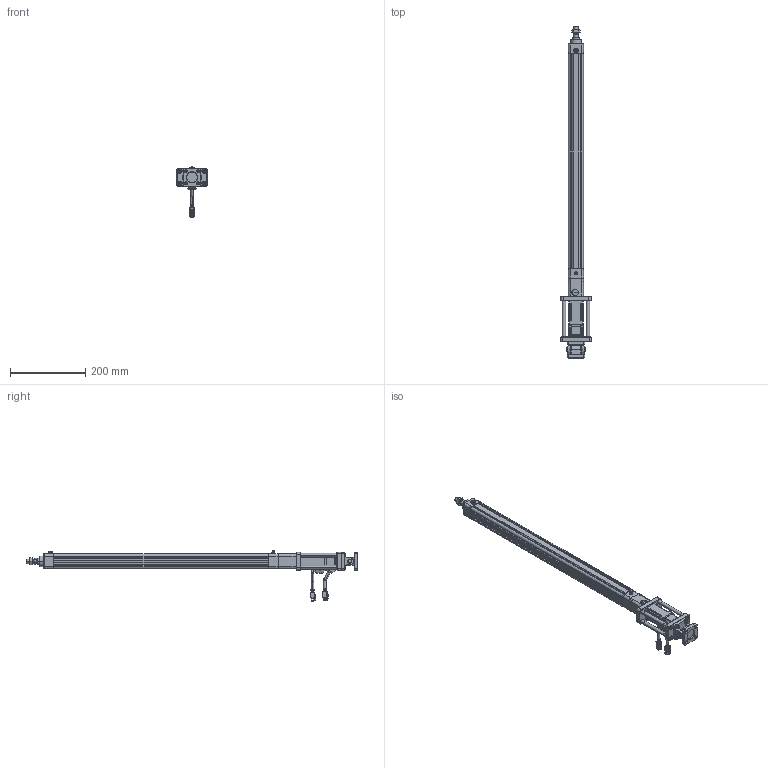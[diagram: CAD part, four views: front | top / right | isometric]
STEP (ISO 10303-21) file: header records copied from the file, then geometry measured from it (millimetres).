
FILE_DESCRIPTION((''),'2;1');
FILE_NAME('HE32-D-100-2-5_ASM','2020-05-18T',('ASUS20200'),(''),'CREO PARAMETRIC BY PTC INC, 2014190','CREO PARAMETRIC BY PTC INC, 2014190','');
FILE_SCHEMA(('CONFIG_CONTROL_DESIGN'));
Length unit declared in the file: millimetre
Products named in the file (30): HE32-001-X1; HE32-002-X1; HE32-003-X1; 636ZZ; LGLM-M6-22; HE32-007-X1; HE32-008-X1; 1_1; 2_1; 3_1; 4_1; 5_1; 6_1; 7_1; ASM0001_ASM; TF1622-20; SLM-01; YZ-M6X1; SKT-13; HE32-40N-FB-LG10; F-HE32FB; M6X16; F-SE32CB; F-SE32CB-XD; F-SE32CB_ASM; F-SE32CA; HE32-005-X1; HE32-004-X1; HE32-D-P-008-X1; HE32-D-100-2-5_ASM
Assembly tree (51 placements, depth 3):
  HE32-D-100-2-5_ASM
    HE32-001-X1
    HE32-002-X1
    HE32-003-X1
    636ZZ
    LGLM-M6-22  x9
    HE32-007-X1
    HE32-008-X1
    ASM0001_ASM
      1_1
      2_1
      3_1
      4_1
      5_1
      6_1
      7_1
    TF1622-20
    SLM-01
    YZ-M6X1
    SKT-13
    HE32-40N-FB-LG10  x4
    F-HE32FB
    M6X16  x12
    F-SE32CB_ASM
      F-SE32CB
      F-SE32CB-XD
    F-SE32CA
    HE32-005-X1
    HE32-004-X1
    HE32-D-P-008-X1
Bounding box: 80 x 882 x 134.2 mm (x, y, z)
Volume: 885599.9 mm3; surface area: 391234.6 mm2
Topology: 49 solids, 87 shells, 2853 faces, 6741 edges, 4139 vertices
Faces by surface type: plane 1139, cylinder 838, cone 754, torus 82, sphere 22, bspline 18
Entity records: 66904 total; most frequent: CARTESIAN_POINT 12823, DIRECTION 11920, ORIENTED_EDGE 10558, EDGE_CURVE 5327, AXIS2_PLACEMENT_3D 4489, VERTEX_POINT 3308, VECTOR 2942, LINE 2942
